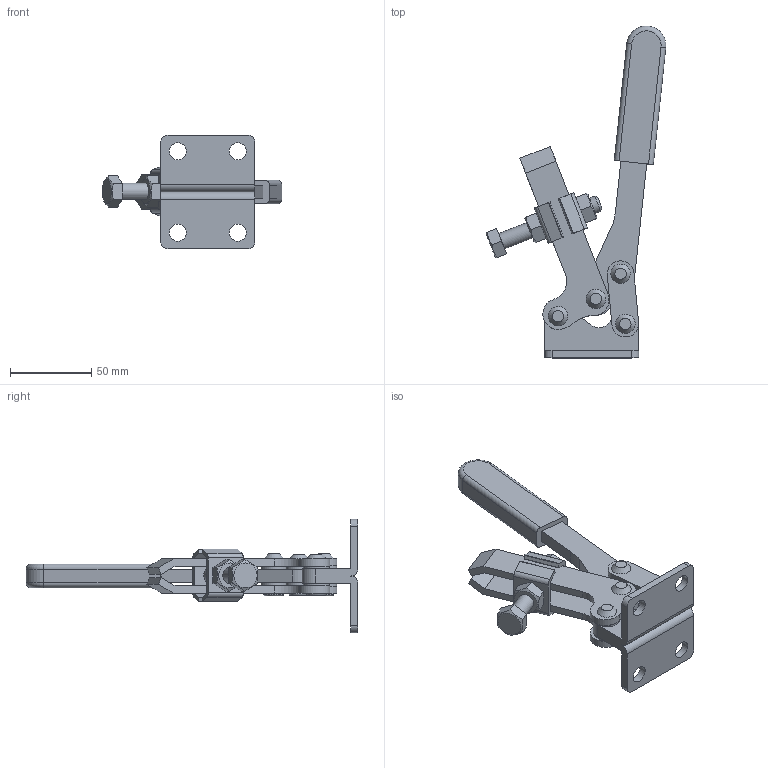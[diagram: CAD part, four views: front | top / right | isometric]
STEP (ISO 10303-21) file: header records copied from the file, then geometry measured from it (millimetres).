
FILE_DESCRIPTION(/* description */ (''),/* implementation_level */ '2;1');
FILE_NAME(/* name */ 'D:\3D作業領域\3D\38D・38DS\No.38D (ul).stp',/* time_stamp */ '2021-12-01T10:23:02+09:00',/* author */ ('y-takahashi'),/* organization */ (''),/* preprocessor_version */ 'ST-DEVELOPER v18',/* originating_system */ 'Autodesk Inventor 2020',/* authorisation */ '');
FILE_SCHEMA (('AUTOMOTIVE_DESIGN { 1 0 10303 214 3 1 1 }'));
Length unit declared in the file: millimetre
Products named in the file (17): No.38D (ul); 38Dベース b; 38Dアームb; 38D38DSアーム; 38DリベットS; ワッシャーt1.9; 38Dリンクb; 38Dリンク b; 38DリベットL; ワッシャーt1.4; ワッシャーt2.2; 38Dハンドル b; 38DGRP; 38Dスピンドルセット; M10×65ボルト; M10ナット（1種）; M10角座金（38D）
Assembly tree (24 placements, depth 3):
  No.38D (ul)
    38Dベース b
    38Dアームb
      38D38DSアーム
      38DリベットS  x2
      ワッシャーt1.4  x2
      ワッシャーt1.9  x2
    38Dリンクb
      38Dリンク b
      38DリベットL  x2
      ワッシャーt1.4  x2
      ワッシャーt2.2  x2
    38Dハンドル b
    38DGRP
    38Dスピンドルセット
      M10×65ボルト
      M10ナット（1種）  x2
      M10角座金（38D）
Bounding box: 110.69 x 204.34 x 70 mm (x, y, z)
Volume: 118205.5 mm3; surface area: 63318.8 mm2
Topology: 24 solids, 24 shells, 240 faces, 551 edges, 375 vertices
Faces by surface type: plane 135, cylinder 91, cone 8, torus 6
Full cylindrical faces by diameter (mm): 4.8 x4, 7.9 x4, 8 x12, 8.5 x8, 10 x3, 10.5 x4, 10.9 x2, 12.3 x4, 15.9 x8
Entity records: 6303 total; most frequent: DIRECTION 1080, CARTESIAN_POINT 1019, ORIENTED_EDGE 910, EDGE_CURVE 455, AXIS2_PLACEMENT_3D 406, VERTEX_POINT 305, LINE 268, VECTOR 268
